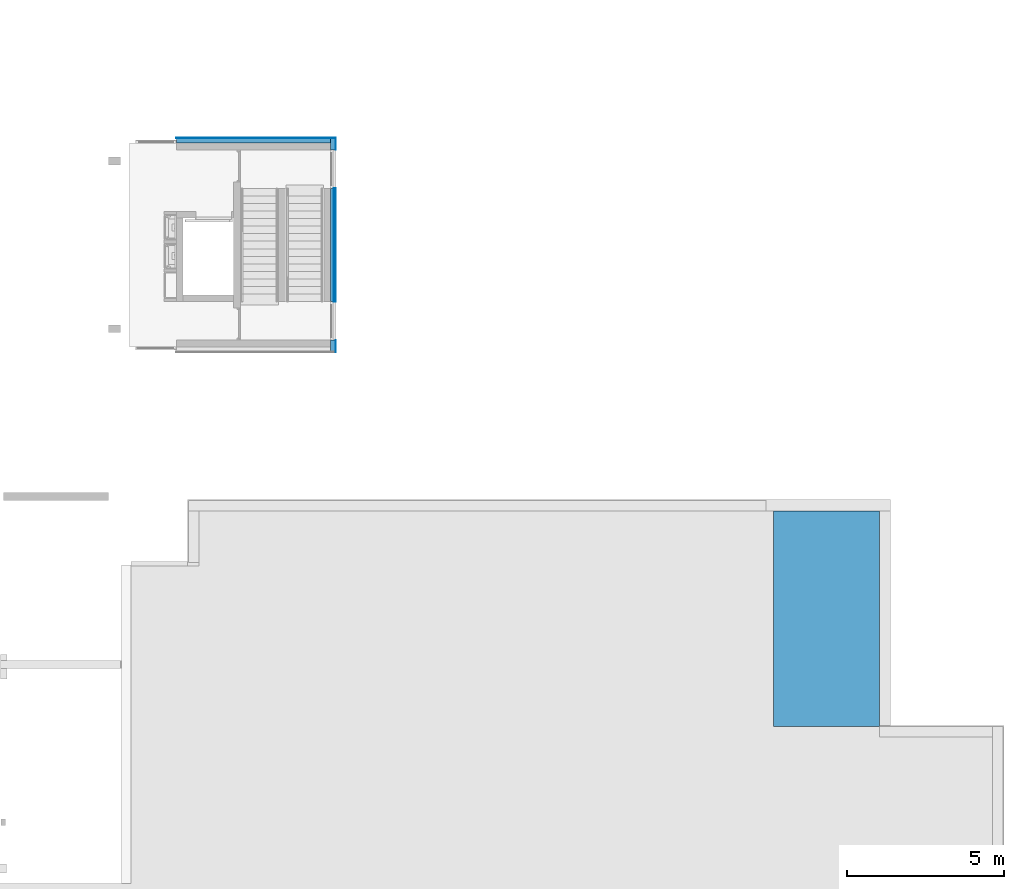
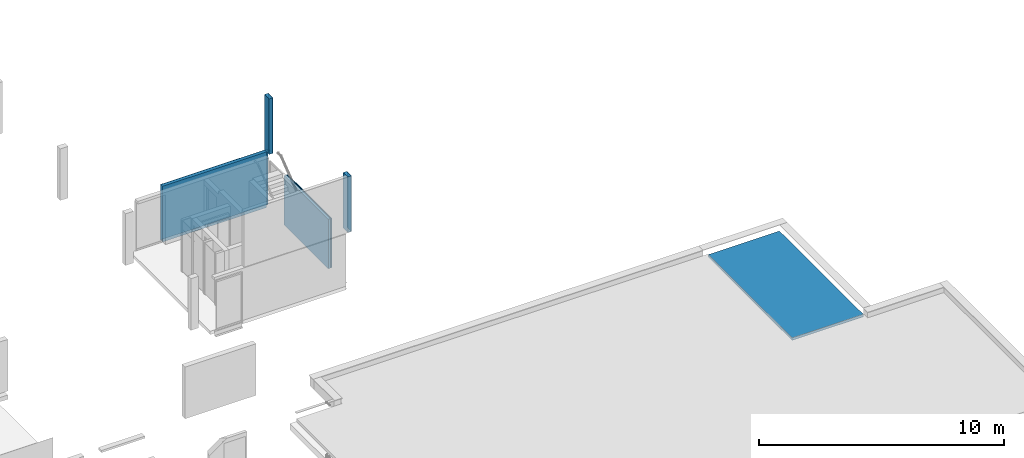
# One storey, part 10 of 22: 16 building element parts, 5 elements without a shape of their own.
"""IFC2X3 building model written with IfcOpenShell, lengths in millimetres."""

from ifc_helpers import new_model, entity, si_unit, converted_unit, derived_unit, money_unit, direction, frame, origin_with_axes, place, context, subcontext, project, spatial, faceted_brep, material, type_object, element, aggregate, save


model = new_model("IFC2X3")

# Units and contexts
model_context = context("Model", 3, precision=0.01, world=origin_with_axes(), true_north=direction((0.0, 1.0)))
body_context = subcontext(model_context, "Body", "Model", "MODEL_VIEW")
ifc_project = project(units=[si_unit("LENGTHUNIT", "METRE", prefix="MILLI"), si_unit("AREAUNIT", "SQUARE_METRE"), si_unit("VOLUMEUNIT", "CUBIC_METRE"), converted_unit("PLANEANGLEUNIT", "DEGREE", entity("IfcPlaneAngleMeasure", 0.0174532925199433), si_unit("PLANEANGLEUNIT", "RADIAN"), dimensions=[0, 0, 0, 0, 0, 0, 0]), money_unit("EUR"), converted_unit("TIMEUNIT", "Year", entity("IfcTimeMeasure", 31557600.0), si_unit("TIMEUNIT", "SECOND"), dimensions=[0, 0, 1, 0, 0, 0, 0]), si_unit("MASSUNIT", "GRAM", prefix="KILO"), si_unit("THERMODYNAMICTEMPERATUREUNIT", "DEGREE_CELSIUS"), si_unit("LUMINOUSINTENSITYUNIT", "LUMEN"), si_unit("ENERGYUNIT", "JOULE", prefix="MEGA"), derived_unit("THERMALCONDUCTANCEUNIT", [(si_unit("POWERUNIT", "WATT"), 1), (si_unit("LENGTHUNIT", "METRE"), -1), (si_unit("THERMODYNAMICTEMPERATUREUNIT", "KELVIN"), -1)]), derived_unit("SPECIFICHEATCAPACITYUNIT", [(si_unit("ENERGYUNIT", "JOULE"), 1), (si_unit("MASSUNIT", "GRAM", prefix="KILO"), -1), (si_unit("THERMODYNAMICTEMPERATUREUNIT", "KELVIN"), -1)]), derived_unit("MASSDENSITYUNIT", [(si_unit("MASSUNIT", "GRAM", prefix="KILO"), 1), (si_unit("VOLUMEUNIT", "CUBIC_METRE"), -1)])], contexts=[model_context])

# Site, building, storey
site_placement = place(None, origin_with_axes())
site = spatial("IfcSite", under=ifc_project, at=site_placement, Name="Site", CompositionType="ELEMENT")
building_placement = place(site_placement, origin_with_axes())
building = spatial("IfcBuilding", under=site, at=building_placement, Name="Naam gebouw", CompositionType="ELEMENT")
storey_placement = place(building_placement, frame((0.0, 0.0, 11150.0), z_axis=(0.0, 0.0, 1.0), x_axis=(1.0, 0.0, 0.0)))
storey = spatial("IfcBuildingStorey", under=building, at=storey_placement, Name="3e verdieping/dak N", CompositionType="ELEMENT", Elevation=11150.0)

# Wall, building element parts
wall_type_1 = type_object("IfcWallType", Name="Basic Wall:41_WA_stucwerk op iso 170mm", PredefinedType="STANDARD")
wall_1_placement = place(storey_placement, frame((31685.01028263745, 39265.41242632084, 310.0000000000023), z_axis=(0.0, 0.0, 1.0), x_axis=(1.0, 0.0, 0.0)))
wall_1 = element("IfcWall", 1, at=wall_1_placement, inside=storey, type_object=wall_type_1, Name="Basic Wall:41_WA_stucwerk op iso 170mm")
ifc_material_1 = material(Name="Verflaag ral 7044  Zijdengrijs Isostuc")
building_element_part_1_placement = place(wall_1_placement, origin_with_axes())
building_element_part_1 = element("IfcBuildingElementPart", 2, at=building_element_part_1_placement, material=ifc_material_1, Name="Verflaag ral 7044  Zijdengrijs Isostuc", context=body_context, shape_type="Brep", body=[
    faceted_brep([(5064.989717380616, 84.5000000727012, 0.0), (-9.876544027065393e-10, 84.50000001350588, 0.0), (-9.983125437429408e-10, 85.50000001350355, 0.0), (5064.989717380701, 85.50000007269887, 0.0), (5064.989717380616, 84.5000000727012, 2770.000000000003), (-9.876544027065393e-10, 84.50000001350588, 2770.000000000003), (-9.983125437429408e-10, 85.50000001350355, 2770.000000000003), (5064.989717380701, 85.50000007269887, 2770.000000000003)], [[[0, 1, 2, 3]], [[4, 5, 1, 0]], [[2, 1, 5, 6]], [[3, 2, 6, 7]], [[3, 7, 4, 0]], [[7, 6, 5, 4]]]),
])
ifc_material_2 = material(Name="isolatie_080_1-100")
building_element_part_2_placement = place(wall_1_placement, origin_with_axes())
building_element_part_2 = element("IfcBuildingElementPart", 3, at=building_element_part_2_placement, material=ifc_material_2, Name="isolatie_080_1-100", context=body_context, shape_type="Brep", body=[
    faceted_brep([(4894.989717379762, 74.50000007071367, 0.0), (4894.989717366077, -85.49999992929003, 0.0), (9.983125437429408e-10, -85.49999998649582, 0.0), (-8.704148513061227e-10, 74.50000001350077, 0.0), (4894.989717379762, 74.50000007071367, 2770.000000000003), (4894.989717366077, -85.49999992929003, 2770.000000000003), (9.983125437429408e-10, -85.49999998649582, 2770.000000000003), (-8.704148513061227e-10, 74.50000001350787, 2770.000000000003)], [[[0, 1, 2, 3]], [[1, 0, 4, 5]], [[1, 5, 6, 2]], [[7, 3, 2, 6]], [[4, 0, 3, 7]], [[5, 4, 7, 6]]]),
])
ifc_material_3 = material(Name="stucwerk - gevel gebouw V RAL 7044")
building_element_part_3_placement = place(wall_1_placement, origin_with_axes())
building_element_part_3 = element("IfcBuildingElementPart", 4, at=building_element_part_3_placement, material=ifc_material_3, Name="stucwerk - gevel gebouw V RAL 7044", context=body_context, shape_type="Brep", body=[
    faceted_brep([(5054.989717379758, 74.5000000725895, 0.0), (-8.704148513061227e-10, 74.50000001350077, 0.0), (-9.876544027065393e-10, 84.50000001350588, 0.0), (5054.989717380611, 84.50000007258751, 0.0), (5054.989717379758, 74.5000000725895, 2770.000000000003), (-8.704148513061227e-10, 74.50000001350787, 2770.000000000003), (-9.876544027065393e-10, 84.50000001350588, 2770.000000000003), (5054.989717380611, 84.50000007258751, 2770.000000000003)], [[[0, 1, 2, 3]], [[4, 5, 1, 0]], [[2, 1, 5, 6]], [[3, 2, 6, 7]], [[3, 7, 4, 0]], [[7, 6, 5, 4]]]),
])
aggregate(wall_1, [building_element_part_1, building_element_part_2, building_element_part_3])

# Slab, building element parts
slab_type = type_object("IfcSlabType", Name="Platdak 125", PredefinedType="NOTDEFINED")
slab_placement = place(storey_placement, frame((50639.99999999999, 20655.9124251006, 0.0), z_axis=(0.0, 0.0, 1.0), x_axis=(1.0, 0.0, 0.0)))
slab = element("IfcSlab", 5, at=slab_placement, inside=storey, type_object=slab_type, Name="_Vloer-x", PredefinedType="NOTDEFINED")
ifc_material_4 = material(Name="Membraan - waterdicht")
building_element_part_4_placement = place(slab_placement, origin_with_axes())
building_element_part_4 = element("IfcBuildingElementPart", 6, at=building_element_part_4_placement, material=ifc_material_4, Name="Membraan - waterdicht", context=body_context, shape_type="Brep", body=[
    faceted_brep([(3360.000000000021, 0.0, 119.9999999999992), (3360.000000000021, 0.0, 125.0), (0.0, 0.0, 125.0), (0.0, 0.0, 119.9999999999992), (3360.000000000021, 6850.000000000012, 119.9999999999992), (3360.000000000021, 6850.000000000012, 125.0), (0.0, 6850.000000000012, 125.0), (0.0, 6850.000000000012, 119.9999999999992)], [[[0, 1, 2, 3]], [[4, 5, 1, 0]], [[2, 1, 5, 6]], [[3, 2, 6, 7]], [[3, 7, 4, 0]], [[7, 6, 5, 4]]]),
])
ifc_material_5 = material(Name="Hout - Multiplex")
building_element_part_5_placement = place(slab_placement, origin_with_axes())
building_element_part_5 = element("IfcBuildingElementPart", 7, at=building_element_part_5_placement, material=ifc_material_5, Name="Hout - Multiplex", context=body_context, shape_type="Brep", body=[
    faceted_brep([(0.0, 0.0, 0.0), (3360.000000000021, 0.0, 0.0), (3360.000000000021, 0.0, 19.99999999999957), (0.0, 0.0, 19.99999999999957), (0.0, 6850.000000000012, 0.0), (3360.000000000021, 6850.000000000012, 0.0), (3360.000000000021, 6850.000000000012, 19.99999999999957), (0.0, 6850.000000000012, 19.99999999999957)], [[[0, 1, 2, 3]], [[0, 4, 5, 1]], [[1, 5, 6, 2]], [[3, 2, 6, 7]], [[4, 0, 3, 7]], [[5, 4, 7, 6]]]),
])
ifc_material_6 = material(Name="Isolatie - Kunststof hard")
building_element_part_6_placement = place(slab_placement, origin_with_axes())
building_element_part_6 = element("IfcBuildingElementPart", 8, at=building_element_part_6_placement, material=ifc_material_6, Name="Isolatie - Kunststof hard", context=body_context, shape_type="Brep", body=[
    faceted_brep([(3360.000000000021, 0.0, 19.99999999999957), (3360.000000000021, 0.0, 119.9999999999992), (0.0, 0.0, 119.9999999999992), (0.0, 0.0, 19.99999999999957), (3360.000000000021, 6850.000000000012, 19.99999999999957), (3360.000000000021, 6850.000000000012, 119.9999999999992), (0.0, 6850.000000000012, 119.9999999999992), (0.0, 6850.000000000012, 19.99999999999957)], [[[0, 1, 2, 3]], [[4, 5, 1, 0]], [[2, 1, 5, 6]], [[3, 2, 6, 7]], [[3, 7, 4, 0]], [[7, 6, 5, 4]]]),
])
aggregate(slab, [building_element_part_4, building_element_part_5, building_element_part_6])

# Wall, building element parts
wall_type_2 = type_object("IfcWallType", Name="Basic Wall:41_WA_houten delen vert trappenhuis", PredefinedType="STANDARD")
wall_2_placement = place(storey_placement, frame((36664.0000000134, 34145.91242629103, 310.0000000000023), z_axis=(0.0, 0.0, 1.0), x_axis=(0.0, 1.0, 0.0)))
wall_2 = element("IfcWall", 9, at=wall_2_placement, inside=storey, type_object=wall_type_2, Name="Basic Wall:41_WA_houten delen vert trappenhuis")
ifc_material_7 = material(Name="isolatie")
building_element_part_7_placement = place(wall_2_placement, origin_with_axes())
building_element_part_7 = element("IfcBuildingElementPart", 10, at=building_element_part_7_placement, material=ifc_material_7, Name="isolatie", context=body_context, shape_type="Brep", body=[
    faceted_brep([(3599.999999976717, 83.99999999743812, 0.0), (3599.999999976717, -16.0000000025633, 0.0), (0.0, -16.0000000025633, 0.0), (0.0, 83.99999999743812, 0.0), (3599.999999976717, 83.99999999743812, 2470.0), (3599.999999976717, -16.0000000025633, 2470.0), (0.0, -16.0000000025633, 2470.0), (0.0, 83.99999999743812, 2470.0)], [[[0, 1, 2, 3]], [[0, 4, 5, 1]], [[1, 5, 6, 2]], [[3, 2, 6, 7]], [[4, 0, 3, 7]], [[5, 4, 7, 6]]]),
])
ifc_material_8 = material(Name="luchtspouw")
building_element_part_8_placement = place(wall_2_placement, origin_with_axes())
building_element_part_8 = element("IfcBuildingElementPart", 11, at=building_element_part_8_placement, material=ifc_material_8, Name="luchtspouw", context=body_context, shape_type="Brep", body=[
    faceted_brep([(3599.999999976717, -16.0000000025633, 0.0), (3599.999999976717, -44.00000000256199, 0.0), (0.0, -44.00000000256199, 0.0), (0.0, -16.0000000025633, 0.0), (3599.999999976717, -16.0000000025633, 2470.0), (3599.999999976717, -44.00000000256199, 2470.0), (0.0, -44.00000000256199, 2470.0), (0.0, -16.0000000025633, 2470.0)], [[[0, 1, 2, 3]], [[0, 4, 5, 1]], [[1, 5, 6, 2]], [[3, 2, 6, 7]], [[4, 0, 3, 7]], [[5, 4, 7, 6]]]),
])
building_element_part_9_placement = place(wall_2_placement, origin_with_axes())
building_element_part_9 = element("IfcBuildingElementPart", 12, at=building_element_part_9_placement, material=ifc_material_8, Name="luchtspouw", context=body_context, shape_type="Brep", body=[
    faceted_brep([(3599.999999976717, -44.00000000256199, 0.0), (3599.999999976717, -66.00000000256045, 0.0), (0.0, -66.00000000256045, 0.0), (0.0, -44.00000000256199, 0.0), (3599.999999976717, -44.00000000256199, 2470.0), (3599.999999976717, -66.00000000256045, 2470.0), (0.0, -66.00000000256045, 2470.0), (0.0, -44.00000000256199, 2470.0)], [[[0, 1, 2, 3]], [[0, 4, 5, 1]], [[1, 5, 6, 2]], [[3, 2, 6, 7]], [[4, 0, 3, 7]], [[5, 4, 7, 6]]]),
])
ifc_material_9 = material(Name="Houten delen vert")
building_element_part_10_placement = place(wall_2_placement, origin_with_axes())
building_element_part_10 = element("IfcBuildingElementPart", 13, at=building_element_part_10_placement, material=ifc_material_9, Name="Houten delen vert", context=body_context, shape_type="Brep", body=[
    faceted_brep([(3599.999999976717, -66.00000000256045, 0.0), (3599.999999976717, -84.00000000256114, 0.0), (0.0, -84.00000000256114, 0.0), (0.0, -66.00000000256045, 0.0), (3599.999999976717, -66.00000000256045, 2470.0), (3599.999999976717, -84.00000000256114, 2470.0), (0.0, -84.00000000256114, 2470.0), (0.0, -66.00000000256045, 2470.0)], [[[0, 1, 2, 3]], [[0, 4, 5, 1]], [[1, 5, 6, 2]], [[3, 2, 6, 7]], [[4, 0, 3, 7]], [[5, 4, 7, 6]]]),
])
aggregate(wall_2, [building_element_part_7, building_element_part_8, building_element_part_9, building_element_part_10])

wall_3_placement = place(storey_placement, frame((36665.50000005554, 39265.41242626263, 3080.000000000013), z_axis=(0.0, 0.0, 1.0), x_axis=(0.0, -1.0, 0.0)))
wall_3 = element("IfcWall", 14, at=wall_3_placement, inside=storey, type_object=wall_type_1, Name="Basic Wall:41_WA_stucwerk op iso 170mm")
building_element_part_11_placement = place(wall_3_placement, origin_with_axes())
building_element_part_11 = element("IfcBuildingElementPart", 15, at=building_element_part_11_placement, material=ifc_material_3, Name="stucwerk - gevel gebouw V RAL 7044", context=body_context, shape_type="Brep", body=[
    faceted_brep([(-84.5000000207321, 84.49999994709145, 0.0), (299.4999999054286, 84.49999998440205, 0.0), (299.4999999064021, 74.49999998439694, 0.0), (-84.50000001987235, 74.49999994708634, 0.0), (-84.5000000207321, 84.49999994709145, 2770.000000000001), (299.4999999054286, 84.49999998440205, 2770.000000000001), (299.4999999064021, 74.49999998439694, 2770.000000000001), (-84.50000001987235, 74.49999994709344, 2770.000000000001)], [[[0, 1, 2, 3]], [[4, 5, 1, 0]], [[2, 1, 5, 6]], [[3, 2, 6, 7]], [[4, 0, 3, 7]], [[7, 6, 5, 4]]]),
])
building_element_part_12_placement = place(wall_3_placement, origin_with_axes())
building_element_part_12 = element("IfcBuildingElementPart", 16, at=building_element_part_12_placement, material=ifc_material_1, Name="Verflaag ral 7044  Zijdengrijs Isostuc", context=body_context, shape_type="Brep", body=[
    faceted_brep([(-85.50000002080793, 85.49999994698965, 0.0), (299.4999999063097, 85.49999998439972, 0.0), (299.4999999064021, 84.49999998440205, 0.0), (-85.50000002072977, 84.49999994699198, 0.0), (-85.50000002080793, 85.49999994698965, 2770.000000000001), (299.4999999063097, 85.49999998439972, 2770.000000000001), (299.4999999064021, 84.49999998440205, 2770.000000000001), (-85.50000002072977, 84.49999994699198, 2770.000000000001)], [[[0, 1, 2, 3]], [[4, 5, 1, 0]], [[2, 1, 5, 6]], [[3, 2, 6, 7]], [[4, 0, 3, 7]], [[7, 6, 5, 4]]]),
])
building_element_part_13_placement = place(wall_3_placement, origin_with_axes())
building_element_part_13 = element("IfcBuildingElementPart", 17, at=building_element_part_13_placement, material=ifc_material_2, Name="isolatie_080_1-100", context=body_context, shape_type="Brep", body=[
    faceted_brep([(-74.50000001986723, 74.49999994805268, 0.0), (299.4999998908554, 74.49999998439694, 0.0), (299.4999999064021, -85.50000001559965, 0.0), (-74.50000000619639, -85.50000005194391, 0.0), (-74.50000001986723, 74.49999994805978, 2770.000000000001), (299.4999998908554, 74.49999998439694, 2770.000000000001), (299.4999999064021, -85.50000001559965, 2770.000000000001), (-74.50000000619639, -85.50000005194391, 2770.000000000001)], [[[0, 1, 2, 3]], [[4, 5, 1, 0]], [[2, 1, 5, 6]], [[3, 2, 6, 7]], [[4, 0, 3, 7]], [[7, 6, 5, 4]]]),
])
aggregate(wall_3, [building_element_part_11, building_element_part_12, building_element_part_13])

wall_4_placement = place(storey_placement, frame((36665.50000002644, 32925.91242631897, 3080.000000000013), z_axis=(0.0, 0.0, 1.0), x_axis=(0.0, -1.0, 0.0)))
wall_4 = element("IfcWall", 18, at=wall_4_placement, inside=storey, type_object=wall_type_1, Name="Basic Wall:41_WA_stucwerk op iso 170mm")
building_element_part_14_placement = place(wall_4_placement, origin_with_axes())
building_element_part_14 = element("IfcBuildingElementPart", 19, at=building_element_part_14_placement, material=ifc_material_1, Name="Verflaag ral 7044  Zijdengrijs Isostuc", context=body_context, shape_type="Brep", body=[
    faceted_brep([(385.0000000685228, 85.50000001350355, 0.0), (385.0000000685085, 84.50000001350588, 0.0), (0.0, 84.50000001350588, 0.0), (0.0, 85.50000001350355, 0.0), (385.0000000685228, 85.50000001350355, 2770.000000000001), (385.0000000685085, 84.50000001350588, 2770.000000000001), (0.0, 84.50000001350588, 2770.000000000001), (0.0, 85.50000001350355, 2770.000000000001)], [[[0, 1, 2, 3]], [[1, 0, 4, 5]], [[1, 5, 6, 2]], [[7, 3, 2, 6]], [[4, 0, 3, 7]], [[5, 4, 7, 6]]]),
])
building_element_part_15_placement = place(wall_4_placement, origin_with_axes())
building_element_part_15 = element("IfcBuildingElementPart", 20, at=building_element_part_15_placement, material=ifc_material_2, Name="isolatie_080_1-100", context=body_context, shape_type="Brep", body=[
    faceted_brep([(374.0000000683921, 74.50000001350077, 0.0), (374.0000000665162, -85.49999998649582, 0.0), (0.0, -85.49999998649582, 0.0), (0.0, 74.50000001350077, 0.0), (374.0000000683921, 74.50000001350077, 2770.000000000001), (374.0000000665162, -85.49999998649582, 2770.000000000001), (0.0, -85.49999998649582, 2770.000000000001), (0.0, 74.50000001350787, 2770.000000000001)], [[[0, 1, 2, 3]], [[1, 0, 4, 5]], [[1, 5, 6, 2]], [[7, 3, 2, 6]], [[4, 0, 3, 7]], [[5, 4, 7, 6]]]),
])
building_element_part_16_placement = place(wall_4_placement, origin_with_axes())
building_element_part_16 = element("IfcBuildingElementPart", 21, at=building_element_part_16_placement, material=ifc_material_3, Name="stucwerk - gevel gebouw V RAL 7044", context=body_context, shape_type="Brep", body=[
    faceted_brep([(384.0000000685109, 84.50000001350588, 0.0), (384.0000000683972, 74.50000001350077, 0.0), (0.0, 74.50000001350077, 0.0), (0.0, 84.50000001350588, 0.0), (384.0000000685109, 84.50000001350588, 2770.000000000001), (384.0000000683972, 74.50000001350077, 2770.000000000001), (0.0, 74.50000001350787, 2770.000000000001), (0.0, 84.50000001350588, 2770.000000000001)], [[[0, 1, 2, 3]], [[1, 0, 4, 5]], [[1, 5, 6, 2]], [[7, 3, 2, 6]], [[4, 0, 3, 7]], [[5, 4, 7, 6]]]),
])
aggregate(wall_4, [building_element_part_14, building_element_part_15, building_element_part_16])

save(model, "model.ifc")
